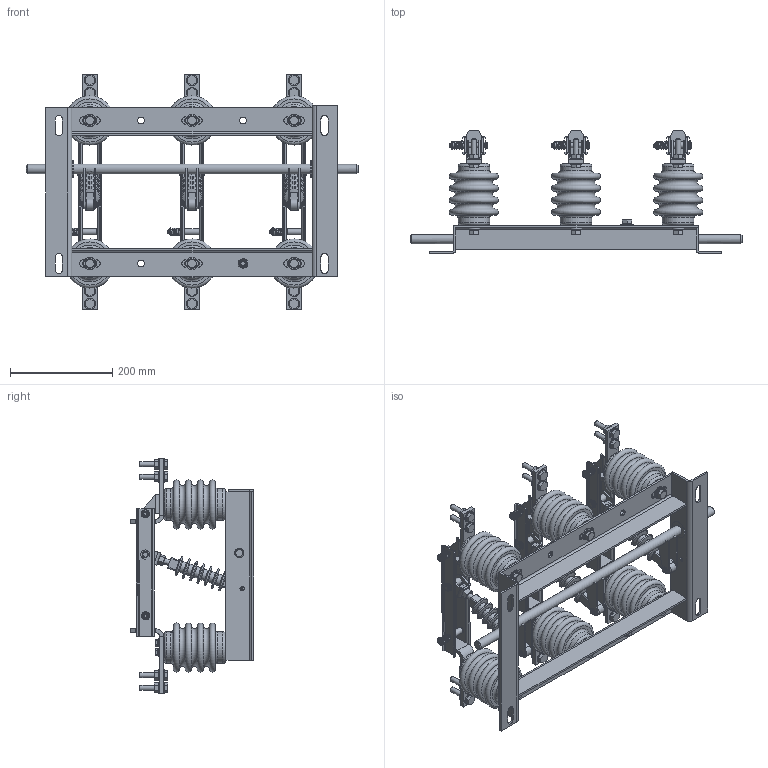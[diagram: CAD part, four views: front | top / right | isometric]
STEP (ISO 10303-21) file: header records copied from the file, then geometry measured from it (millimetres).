
FILE_DESCRIPTION (( 'STEP AP214' ), '1' );
FILE_NAME ('Ðàçúåäèíèòåëü âûñîêîâîëüòíûé ÐÂ-10630-ÓÕË2.STEP', '2023-02-06T06:58:15', ( '' ), ( '' ), 'SwSTEP 2.0', 'SolidWorks 2018', '' );
FILE_SCHEMA (( 'AUTOMOTIVE_DESIGN' ));
Length unit declared in the file: millimetre
Products named in the file (1): Ðàçúåäèíèòåëü âûñîêîâîëüòíûé ÐÂ-10630-ÓÕË2
Bounding box: 650 x 241 x 462 mm (x, y, z)
Volume: 5327798.5 mm3; surface area: 1043403 mm2
Topology: 1 solids, 7 shells, 2049 faces, 5147 edges, 3271 vertices
Faces by surface type: plane 1258, cylinder 560, cone 125, torus 100, bspline 6
Full cylindrical faces by diameter (mm): 4 x13, 8 x37, 8.2 x1, 8.3 x4, 8.4 x6, 9.485 x1, 9.55 x4, 9.795 x1, 10 x12, 10.106 x1, 10.343 x4, 10.653 x2, 10.822 x3, 11.745 x3, 12 x22, 12.35 x12, 12.613 x4, 12.941 x4, 13 x10, 13.925 x4, 14.903 x4, 16 x12, 18 x2, 19.294 x3, 22 x42, 24 x7, 34 x2, 54 x12, 62 x12
Entity records: 106430 total; most frequent: CARTESIAN_POINT 38142, DIRECTION 9687, ORIENTED_EDGE 9008, EDGE_CURVE 4504, AXIS2_PLACEMENT_3D 3654, VERTEX_POINT 3097, EDGE_LOOP 2825, FACE_OUTER_BOUND 2393
